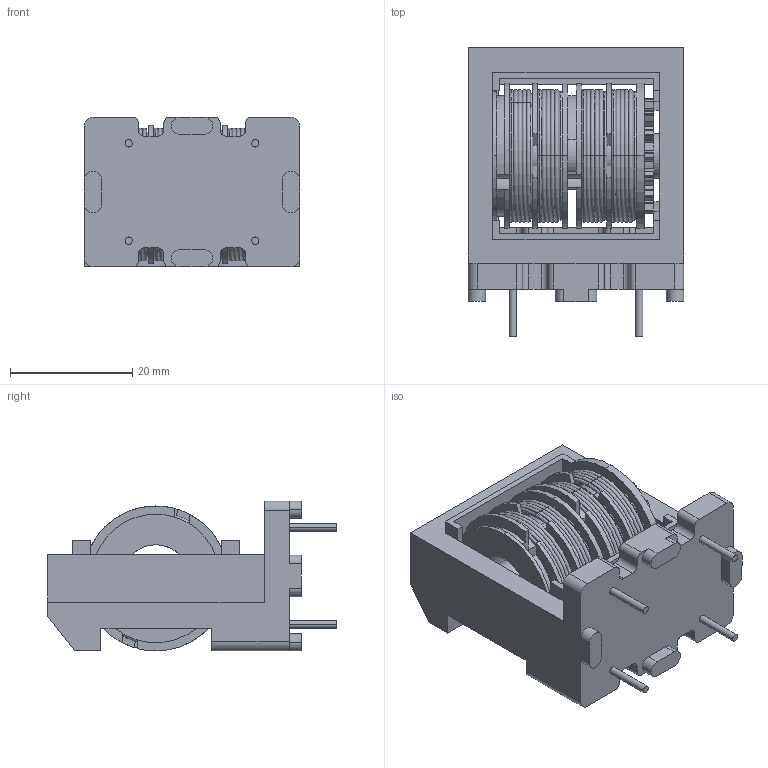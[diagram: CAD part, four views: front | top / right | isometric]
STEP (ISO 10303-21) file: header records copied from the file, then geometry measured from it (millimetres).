
FILE_DESCRIPTION (( 'STEP AP214' ), '1' );
FILE_NAME ('35V Series.STEP', '2020-08-11T23:59:13', ( '' ), ( '' ), 'SwSTEP 2.0', 'SolidWorks 2015', '' );
FILE_SCHEMA (( 'AUTOMOTIVE_DESIGN' ));
Length unit declared in the file: inch
Products named in the file (1): 35V Series
Bounding box: 35.25 x 47.15 x 24.5 mm (x, y, z)
Surface area: 15447.5 mm2 (no closed solid volume)
Topology: 0 solids, 11 shells, 395 faces, 1264 edges, 848 vertices
Faces by surface type: plane 165, cylinder 134, torus 96
Entity records: 19232 total; most frequent: DIRECTION 2642, CARTESIAN_POINT 2508, ORIENTED_EDGE 2256, EDGE_CURVE 1264, AXIS2_PLACEMENT_3D 982, VERTEX_POINT 848, LINE 678, VECTOR 678
